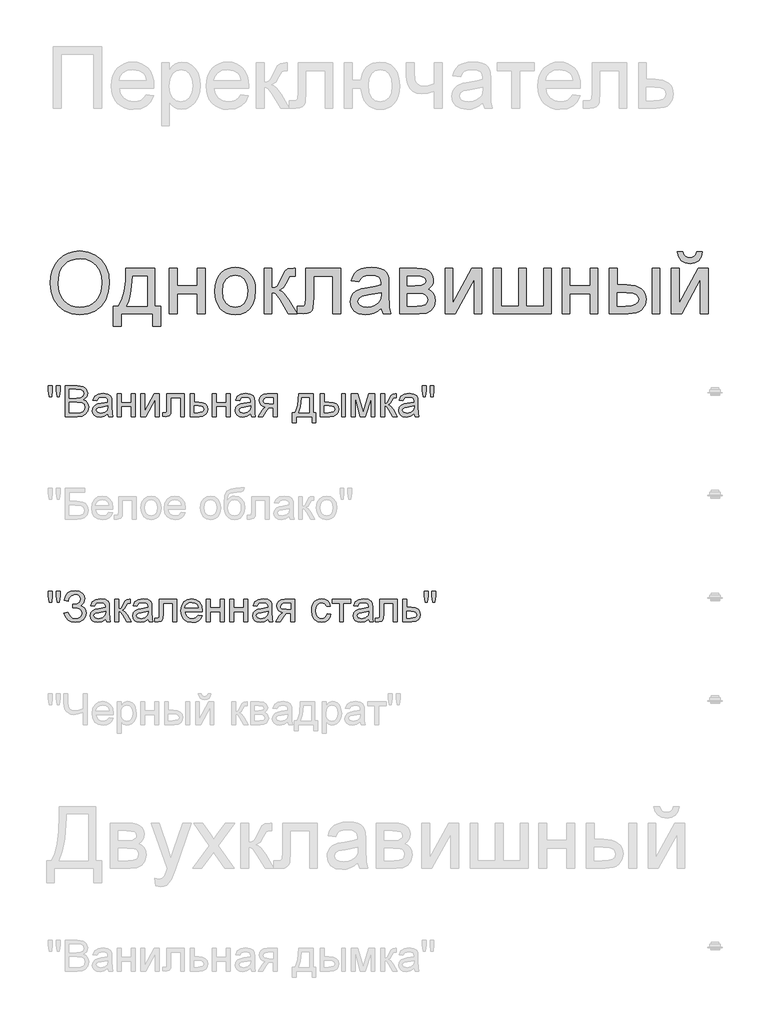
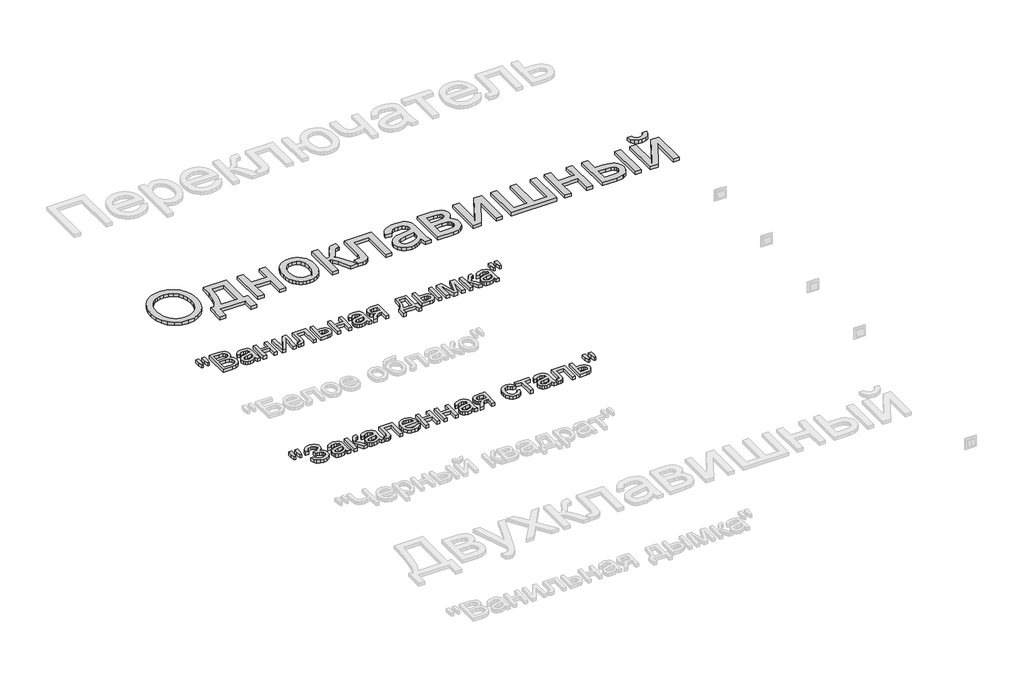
# One storey, part 141 of 168: 3 proxies.
"""IFC4 building model written with IfcOpenShell, lengths in millimetres."""

from ifc_helpers import new_model, si_unit, origin, origin_with_axes, place, context, project, spatial, polyline, outline, extrude, element, save

model = new_model("IFC4")

# Units and contexts
model_context = context("Model", 3, world=origin())
ifc_project = project(units=[si_unit("LENGTHUNIT", "METRE", prefix="MILLI")], contexts=[model_context])

# Site, building, storey
site = spatial("IfcSite", under=ifc_project)
building = spatial("IfcBuilding", under=site)
storey = spatial("IfcBuildingStorey", under=building, Name="Этаж 01", Elevation=0.0)

# Proxies
placement = place(None, origin())
element("IfcBuildingElementProxy", 1, Name="300 мм Arial 2", ObjectType="300 мм Arial 2", at=placement, inside=storey, context=model_context, shape_type="SweptSolid", body=[
    extrude(outline(polyline([(71084.967833, -20701.6943419), (71087.4786277, -20666.3454807), (71095.0110115, -20635.0525185), (71107.5649846, -20607.8154552), (71125.1405469, -20584.634291), (71146.6846363, -20566.1252281), (71171.1441904, -20552.9044689), (71198.5192094, -20544.9720134), (71228.8096932, -20542.3278616), (71268.3386135, -20547.2942685), (71303.7840438, -20562.1934893), (71333.2146034, -20585.9770603), (71354.6989119, -20617.5965178), (71367.8322991, -20655.5251515), (71372.2100949, -20698.2362511), (71367.6023729, -20741.5175679), (71353.7792069, -20779.9796305), (71331.5039521, -20811.6542703), (71301.5399636, -20834.5733186), (71266.398036, -20848.479258), (71228.588964, -20853.1145711), (71188.4530383, -20847.9918143), (71152.805273, -20832.623544), (71123.4482897, -20808.3985146), (71102.1847104, -20776.7054807), (71089.2720524, -20740.2391779), (71084.967833, -20701.6943419)]), holes=[polyline([(71122.6389493, -20702.0622239), (71124.5220453, -20727.0368128), (71130.1713332, -20749.2063016), (71139.586813, -20768.5706901), (71152.7684848, -20785.1299784), (71168.7920449, -20798.3921243), (71186.73319, -20807.8650857), (71206.5919199, -20813.5488625), (71228.3682348, -20815.4434548), (71250.5170301, -20813.5304684), (71270.6102849, -20807.7915093), (71288.6479989, -20798.2265774), (71304.6301724, -20784.8356728), (71317.7152751, -20767.9268966), (71327.061777, -20747.80835), (71332.6696782, -20724.480033), (71334.5389786, -20697.9419455), (71331.3384052, -20664.5934427), (71321.7366851, -20635.7698884), (71305.9821387, -20612.1978495), (71284.3230862, -20594.6038931), (71258.1942675, -20583.6502067), (71229.0304224, -20579.9989779), (71208.0105649, -20581.7579137), (71188.5082206, -20587.034721), (71170.5233895, -20595.8294), (71154.0560717, -20608.1419505), (71140.3110807, -20624.5655823), (71130.4932299, -20645.6935052), (71124.6025195, -20671.525719), (71122.6389493, -20702.0622239)])]), origin_with_axes(), (0.0, 0.0, 1.0), 20.0),
    extrude(outline(polyline([(71452.261217, -20627.0878733), (71593.5279032, -20627.0878733), (71593.5279032, -20810.7345653), (71621.7812404, -20810.7345653), (71621.7812404, -20909.6212456), (71584.1101241, -20909.6212456), (71584.1101241, -20848.4056816), (71428.7167693, -20848.4056816), (71428.7167693, -20909.6212456), (71391.045653, -20909.6212456), (71391.045653, -20810.7345653), (71414.5901007, -20810.7345653), (71431.7058105, -20779.8048865), (71443.6895665, -20738.8872116), (71450.5413687, -20687.9815405), (71452.261217, -20627.0878733)]), holes=[polyline([(71485.2234438, -20664.7589896), (71482.133235, -20710.8821947), (71476.3942759, -20750.5858591), (71468.0065664, -20783.8699826), (71456.9701066, -20810.7345653), (71555.8567869, -20810.7345653), (71555.8567869, -20664.7589896), (71485.2234438, -20664.7589896)])]), origin_with_axes(), (0.0, 0.0, 1.0), 20.0),
    extrude(outline(polyline([(71664.1612462, -20627.0878733), (71701.8323626, -20627.0878733), (71701.8323626, -20711.847885), (71800.7190429, -20711.847885), (71800.7190429, -20627.0878733), (71838.3901592, -20627.0878733), (71838.3901592, -20848.4056816), (71800.7190429, -20848.4056816), (71800.7190429, -20749.5190013), (71701.8323626, -20749.5190013), (71701.8323626, -20848.4056816), (71664.1612462, -20848.4056816), (71664.1612462, -20627.0878733)])), origin_with_axes(), (0.0, 0.0, 1.0), 20.0),
    extrude(outline(polyline([(71885.4790545, -20737.7467774), (71887.5162011, -20709.0841715), (71893.6276407, -20684.385494), (71903.8133735, -20663.6507451), (71918.0733993, -20646.8799246), (71932.4299942, -20636.160763), (71948.2765111, -20628.504219), (71965.6129501, -20623.9102925), (71984.4393113, -20622.3789837), (72005.2223447, -20624.2436856), (72024.0142169, -20629.8377912), (72040.8149277, -20639.1613005), (72055.6244773, -20652.2142135), (72067.7117001, -20668.5550719), (72076.3454307, -20687.7424172), (72081.525669, -20709.7762495), (72083.2524152, -20734.6565687), (72080.1989946, -20772.7139611), (72071.0387329, -20801.6846682), (72056.0383446, -20823.3805088), (72035.464544, -20839.6133019), (72011.0279825, -20849.7392538), (71984.4393113, -20853.1145711), (71963.3527751, -20851.256767), (71944.386159, -20845.6833548), (71927.5394629, -20836.3943344), (71912.8126868, -20823.3897059), (71900.8542227, -20806.8901984), (71892.3124626, -20787.1165412), (71887.1874066, -20764.0687342), (71885.4790545, -20737.7467774)]), holes=[polyline([(71923.1501709, -20737.673201), (71927.5095725, -20771.7666649), (71940.5877774, -20796.0560737), (71960.2694642, -20810.5966095), (71984.4393113, -20815.4434548), (72008.4987937, -20810.5690184), (72028.1436923, -20795.9457091), (72041.2218972, -20771.3344036), (72045.5812988, -20736.4959786), (72041.1943061, -20703.3957961), (72028.0333277, -20679.4374812), (72008.360838, -20664.8969453), (71984.4393113, -20660.0501), (71960.2694642, -20664.8785512), (71940.5877774, -20679.3639048), (71927.5095725, -20703.5981312), (71923.1501709, -20737.673201)])]), origin_with_axes(), (0.0, 0.0, 1.0), 20.0),
    extrude(outline(polyline([(72125.632421, -20627.0878733), (72163.3035373, -20627.0878733), (72163.3035373, -20721.265664), (72178.6258224, -20719.5734069), (72188.5402422, -20714.4966353), (72197.3142278, -20701.2528835), (72209.2152103, -20675.0596854), (72226.3952995, -20641.0306009), (72241.5520377, -20629.9573528), (72269.1063991, -20627.0878733), (72276.3168862, -20627.0878733), (72276.3168862, -20664.9797188), (72266.1633432, -20664.7589896), (72247.7692434, -20668.7321151), (72234.8197972, -20693.5273616), (72219.6262708, -20720.345959), (72198.3259032, -20733.4793463), (72210.263674, -20738.7814455), (72222.0910801, -20748.1394438), (72245.4147986, -20779.0231373), (72285.7346653, -20848.4056816), (72242.9132011, -20848.4056816), (72203.4026748, -20780.4946653), (72183.537047, -20751.7630814), (72174.2480267, -20746.5483542), (72163.3035373, -20744.8101117), (72163.3035373, -20848.4056816), (72125.632421, -20848.4056816), (72125.632421, -20627.0878733)])), origin_with_axes(), (0.0, 0.0, 1.0), 20.0),
    extrude(outline(polyline([(72328.1146711, -20627.0878733), (72497.6346945, -20627.0878733), (72497.6346945, -20848.1849524), (72459.9635782, -20848.1849524), (72459.9635782, -20664.7589896), (72365.7857875, -20664.7589896), (72365.7857875, -20770.3411222), (72363.2474017, -20819.0486984), (72358.4925269, -20830.0759612), (72349.3046741, -20839.6133019), (72335.3619464, -20846.2075866), (72316.3424473, -20848.4056816), (72285.7346653, -20846.4926952), (72285.7346653, -20810.7345653), (72302.5836607, -20810.7345653), (72319.6165971, -20808.4169087), (72326.422414, -20801.0592688), (72328.1146711, -20768.2074066), (72328.1146711, -20627.0878733)])), origin_with_axes(), (0.0, 0.0, 1.0), 20.0),
    extrude(outline(polyline([(72695.4080551, -20820.1523443), (72677.4094285, -20835.584994), (72658.877373, -20845.6833548), (72639.3888243, -20851.256767), (72618.5207181, -20853.1145711), (72587.0392164, -20848.6448049), (72563.8166655, -20835.2355061), (72549.4968588, -20814.8732377), (72544.7235899, -20789.5445623), (72546.5262117, -20773.9279716), (72551.934077, -20759.7461207), (72560.2758013, -20747.6060149), (72570.8799998, -20738.1146594), (72597.2571388, -20725.7538244), (72629.8514836, -20720.0884417), (72668.3687285, -20714.1287533), (72695.1873259, -20707.1389954), (72695.4080551, -20698.7512859), (72692.8144871, -20681.9390788), (72685.0337829, -20670.9394071), (72667.6329645, -20662.7724268), (72643.389541, -20660.0501), (72620.9487393, -20661.8619189), (72605.2769663, -20667.2973753), (72594.5899944, -20677.3497509), (72587.1035957, -20693.0123268), (72549.4324794, -20688.3034373), (72555.9715819, -20667.7020455), (72565.7296518, -20651.5152378), (72579.6171971, -20639.1360086), (72598.5447258, -20629.9573528), (72621.6937003, -20624.273576), (72648.2455833, -20622.3789837), (72673.7122145, -20624.0528468), (72693.8997389, -20629.074436), (72709.1208565, -20636.625214), (72719.6882668, -20645.8866432), (72726.6964188, -20657.3369703), (72731.2397615, -20671.4544419), (72733.0791714, -20704.4166687), (72733.0791714, -20751.2848348), (72734.9921578, -20816.7310418), (72742.4969505, -20848.4056816), (72704.8258342, -20848.4056816), (72695.4080551, -20820.1523443)]), holes=[polyline([(72695.4080551, -20744.8101117), (72634.6339495, -20756.3616064), (72602.2235458, -20762.4684475), (72587.5450541, -20772.4012614), (72582.3947062, -20786.895812), (72585.1998064, -20798.0978187), (72593.6151071, -20807.2764745), (72607.4566671, -20813.4017097), (72626.5405456, -20815.4434548), (72646.7740554, -20813.1901776), (72664.6531203, -20806.4303459), (72679.1476709, -20796.4699409), (72689.2276376, -20784.6149436), (72693.6974039, -20772.4012614), (72695.1873259, -20755.4786896), (72695.4080551, -20744.8101117)])]), origin_with_axes(), (0.0, 0.0, 1.0), 20.0),
    extrude(outline(polyline([(72784.8769564, -20627.0878733), (72867.8711345, -20627.0878733), (72894.5517762, -20628.3478691), (72913.3781373, -20632.1278566), (72927.2288944, -20639.2647673), (72938.9827241, -20650.5955328), (72947.0117487, -20665.3567978), (72949.6880902, -20682.7852073), (72948.0694094, -20696.8291025), (72943.2133671, -20708.9416172), (72935.1015691, -20719.1779337), (72923.7156213, -20727.5932344), (72937.658349, -20735.4199238), (72949.0259026, -20748.0106851), (72956.5858776, -20764.3722368), (72959.1058693, -20783.5112976), (72952.7231167, -20812.2244873), (72937.5479844, -20832.439603), (72913.5252901, -20844.4141619), (72880.5998515, -20848.4056816), (72784.8769564, -20848.4056816), (72784.8769564, -20627.0878733)]), holes=[polyline([(72822.5480727, -20711.847885), (72859.7777306, -20711.847885), (72890.4958772, -20709.9348986), (72905.4318862, -20702.2829531), (72910.370702, -20695.9553828), (72912.0169739, -20688.4505901), (72909.1291002, -20677.2117951), (72900.4654792, -20669.9829139), (72884.8121003, -20666.0649707), (72860.954953, -20664.7589896), (72822.5480727, -20664.7589896), (72822.5480727, -20711.847885)]), polyline([(72822.5480727, -20810.7345653), (72868.7540513, -20810.7345653), (72893.9355738, -20809.033111), (72909.7361055, -20803.9287484), (72918.2157855, -20794.648925), (72921.434753, -20780.4210889), (72919.8252692, -20770.9941127), (72914.996818, -20762.2845065), (72907.5839958, -20755.4694925), (72898.2213991, -20751.7262932), (72865.0752313, -20749.5190013), (72822.5480727, -20749.5190013), (72822.5480727, -20810.7345653)])]), origin_with_axes(), (0.0, 0.0, 1.0), 20.0),
    extrude(outline(polyline([(73006.1947647, -20627.0878733), (73043.865881, -20627.0878733), (73043.865881, -20795.8721327), (73136.4249909, -20627.0878733), (73185.1325671, -20627.0878733), (73185.1325671, -20848.4056816), (73147.4614508, -20848.4056816), (73147.4614508, -20680.6514918), (73055.490952, -20848.4056816), (73006.1947647, -20848.4056816), (73006.1947647, -20627.0878733)])), origin_with_axes(), (0.0, 0.0, 1.0), 20.0),
    extrude(outline(polyline([(73241.6392416, -20627.0878733), (73279.3103579, -20627.0878733), (73279.3103579, -20810.7345653), (73364.0703696, -20810.7345653), (73364.0703696, -20627.0878733), (73401.7414859, -20627.0878733), (73401.7414859, -20810.7345653), (73486.5014976, -20810.7345653), (73486.5014976, -20627.0878733), (73524.1726139, -20627.0878733), (73524.1726139, -20848.4056816), (73241.6392416, -20848.4056816), (73241.6392416, -20627.0878733)])), origin_with_axes(), (0.0, 0.0, 1.0), 20.0),
    extrude(outline(polyline([(73575.9703988, -20627.0878733), (73613.6415151, -20627.0878733), (73613.6415151, -20711.847885), (73712.5281954, -20711.847885), (73712.5281954, -20627.0878733), (73750.1993117, -20627.0878733), (73750.1993117, -20848.4056816), (73712.5281954, -20848.4056816), (73712.5281954, -20749.5190013), (73613.6415151, -20749.5190013), (73613.6415151, -20848.4056816), (73575.9703988, -20848.4056816), (73575.9703988, -20627.0878733)])), origin_with_axes(), (0.0, 0.0, 1.0), 20.0),
    extrude(outline(polyline([(74013.8971258, -20627.0878733), (74051.5682421, -20627.0878733), (74051.5682421, -20848.4056816), (74013.8971258, -20848.4056816), (74013.8971258, -20627.0878733)])), origin_with_axes(), (0.0, 0.0, 1.0), 20.0),
    extrude(outline(polyline([(73806.7059862, -20627.0878733), (73844.3771025, -20627.0878733), (73844.3771025, -20707.1389954), (73890.9509631, -20707.1389954), (73931.2064504, -20711.857082), (73947.4231486, -20717.7546902), (73961.0324831, -20726.0113418), (73971.7999293, -20736.3419281), (73979.4909622, -20748.4613405), (73984.105582, -20762.3695792), (73985.6437886, -20778.0666441), (73980.4842436, -20805.0231973), (73965.0056087, -20827.7675016), (73953.1437136, -20836.7967054), (73938.1962083, -20843.2461366), (73899.0443669, -20848.4056816), (73806.7059862, -20848.4056816), (73806.7059862, -20627.0878733)]), holes=[polyline([(73844.3771025, -20810.7345653), (73883.0782884, -20810.7345653), (73913.0790651, -20808.7571995), (73933.0366633, -20802.8251024), (73944.2386701, -20792.6991504), (73947.9726723, -20778.1402205), (73945.2043603, -20765.8345678), (73936.8994243, -20754.9636548), (73919.1399209, -20747.3484975), (73888.0079071, -20744.8101117), (73844.3771025, -20744.8101117), (73844.3771025, -20810.7345653)])]), origin_with_axes(), (0.0, 0.0, 1.0), 20.0),
    extrude(outline(polyline([(74108.0749166, -20627.0878733), (74145.7460329, -20627.0878733), (74145.7460329, -20795.8721327), (74238.3051429, -20627.0878733), (74287.0127191, -20627.0878733), (74287.0127191, -20848.4056816), (74249.3416028, -20848.4056816), (74249.3416028, -20680.6514918), (74157.371104, -20848.4056816), (74108.0749166, -20848.4056816), (74108.0749166, -20627.0878733)])), origin_with_axes(), (0.0, 0.0, 1.0), 20.0),
    extrude(outline(polyline([(74230.5060446, -20547.0367511), (74258.7593818, -20547.0367511), (74252.6801319, -20571.160613), (74240.4756467, -20588.9385104), (74222.6977493, -20599.8921968), (74199.8982626, -20603.5434256), (74175.1581984, -20599.9197879), (74155.9731524, -20589.048875), (74142.8581593, -20571.2985687), (74136.3282538, -20547.0367511), (74164.5815911, -20547.0367511), (74168.5547166, -20559.4435714), (74175.1765925, -20568.2635422), (74184.484007, -20573.5334518), (74196.5137482, -20575.2900883), (74210.0885939, -20573.5886341), (74219.9110431, -20568.4842714), (74226.5329191, -20559.7194829), (74230.5060446, -20547.0367511)])), origin_with_axes(), (0.0, 0.0, 1.0), 20.0),
])
element("IfcBuildingElementProxy", 2, Name="150", ObjectType="150", at=placement, inside=storey, context=model_context, shape_type="SweptSolid", body=[
    extrude(outline(polyline([(71080.1485789, -21251.873446), (71075.550054, -21222.7739802), (71075.550054, -21197.7212163), (71094.3856121, -21197.7212163), (71094.3856121, -21222.7739802), (71090.2653338, -21251.873446), (71080.1485789, -21251.873446)])), origin_with_axes(), (0.0, 0.0, 1.0), 20.0),
    extrude(outline(polyline([(71117.7093306, -21251.873446), (71113.2211703, -21222.7739802), (71113.2211703, -21197.7212163), (71132.0567284, -21197.7212163), (71132.0567284, -21222.7739802), (71127.6421445, -21251.873446), (71117.7093306, -21251.873446)])), origin_with_axes(), (0.0, 0.0, 1.0), 20.0),
    extrude(outline(polyline([(71157.9556209, -21348.4056816), (71157.9556209, -21197.7212163), (71215.4555767, -21197.7212163), (71243.6169435, -21202.1541944), (71253.0807078, -21207.7781904), (71260.2452096, -21215.7842223), (71266.2600803, -21235.0612389), (71261.2017028, -21252.6643923), (71245.9162059, -21266.0001146), (71256.5893823, -21271.5735269), (71264.4758526, -21280.0532069), (71269.3456905, -21290.8781346), (71270.9689698, -21303.48729), (71266.5359918, -21323.7391938), (71255.5547142, -21338.160168), (71239.1655713, -21345.8121135), (71215.0141183, -21348.4056816), (71157.9556209, -21348.4056816)]), holes=[polyline([(71176.791179, -21258.9367803), (71211.1881456, -21258.9367803), (71231.2745025, -21257.3180996), (71243.3594261, -21250.3467358), (71247.4245221, -21238.0778712), (71243.6353376, -21225.7906126), (71232.7828187, -21218.5249432), (71208.5761834, -21216.5567745), (71176.791179, -21216.5567745), (71176.791179, -21258.9367803)]), polyline([(71176.791179, -21329.5701234), (71215.4187885, -21329.5701234), (71229.3983043, -21328.8343594), (71241.2257105, -21324.7324752), (71249.061597, -21316.3631598), (71252.1334117, -21303.671231), (71248.5281681, -21289.0295275), (71236.8479148, -21280.2923302), (71213.5793786, -21277.7723385), (71176.791179, -21277.7723385), (71176.791179, -21329.5701234)])]), origin_with_axes(), (0.0, 0.0, 1.0), 20.0),
    extrude(outline(polyline([(71365.1467606, -21334.279013), (71346.8814195, -21347.0445182), (71326.7030921, -21350.7601263), (71310.9623412, -21348.5252432), (71299.3510657, -21341.8205939), (71292.1911624, -21331.6394596), (71289.804528, -21318.975122), (71293.4097715, -21304.0759012), (71302.8827329, -21293.2601705), (71316.0713024, -21287.079753), (71332.3684748, -21284.2470616), (71365.036396, -21277.7723385), (71365.1467606, -21273.5784838), (71363.8499765, -21265.1723802), (71359.9596244, -21259.6725443), (71351.2592153, -21255.5890542), (71339.1375035, -21254.2278908), (71320.0812162, -21257.8515285), (71310.9945309, -21270.7090042), (71292.1589727, -21268.3545594), (71300.3075589, -21249.9604597), (71316.7150959, -21239.1815172), (71341.5655247, -21235.3923327), (71364.3926025, -21238.7400588), (71377.2868664, -21247.1461624), (71383.0626137, -21259.9300617), (71383.9823187, -21276.4111751), (71383.9823187, -21299.8452582), (71384.9388119, -21332.5683617), (71388.6912083, -21348.4056816), (71369.8556501, -21348.4056816), (71365.1467606, -21334.279013)]), holes=[polyline([(71365.1467606, -21296.6078966), (71334.7597078, -21302.383644), (71318.5545059, -21305.4370645), (71311.2152601, -21310.4034715), (71308.6400861, -21317.6507468), (71314.2502865, -21327.841078), (71330.7130058, -21331.9245682), (71349.7692932, -21327.4180137), (71362.0565518, -21316.5103126), (71365.036396, -21301.9421856), (71365.1467606, -21296.6078966)])]), origin_with_axes(), (0.0, 0.0, 1.0), 20.0),
    extrude(outline(polyline([(71409.8812112, -21237.7467774), (71428.7167693, -21237.7467774), (71428.7167693, -21280.1267833), (71478.1601095, -21280.1267833), (71478.1601095, -21237.7467774), (71496.9956676, -21237.7467774), (71496.9956676, -21348.4056816), (71478.1601095, -21348.4056816), (71478.1601095, -21298.9623414), (71428.7167693, -21298.9623414), (71428.7167693, -21348.4056816), (71409.8812112, -21348.4056816), (71409.8812112, -21237.7467774)])), origin_with_axes(), (0.0, 0.0, 1.0), 20.0),
    extrude(outline(polyline([(71525.2490049, -21237.7467774), (71544.084563, -21237.7467774), (71544.084563, -21322.1389071), (71590.364118, -21237.7467774), (71614.7179061, -21237.7467774), (71614.7179061, -21348.4056816), (71595.8823479, -21348.4056816), (71595.8823479, -21264.5285867), (71549.8970985, -21348.4056816), (71525.2490049, -21348.4056816), (71525.2490049, -21237.7467774)])), origin_with_axes(), (0.0, 0.0, 1.0), 20.0),
    extrude(outline(polyline([(71652.3890224, -21237.7467774), (71737.1490341, -21237.7467774), (71737.1490341, -21348.295317), (71718.3134759, -21348.295317), (71718.3134759, -21256.5823356), (71671.2245806, -21256.5823356), (71671.2245806, -21309.3734019), (71669.9553877, -21333.72719), (71662.9840239, -21344.0094917), (71646.5029105, -21348.4056816), (71631.1990195, -21347.4491884), (71631.1990195, -21329.5701234), (71639.6235172, -21329.5701234), (71648.1399854, -21328.4112951), (71651.5428938, -21324.7324752), (71652.3890224, -21308.3065441), (71652.3890224, -21237.7467774)])), origin_with_axes(), (0.0, 0.0, 1.0), 20.0),
    extrude(outline(polyline([(71765.4023713, -21237.7467774), (71784.2379295, -21237.7467774), (71784.2379295, -21277.7723385), (71805.9429672, -21277.7723385), (71824.7601312, -21280.1313818), (71838.6844648, -21287.2085117), (71847.2929034, -21298.433511), (71850.162383, -21313.2361628), (71847.7205663, -21326.7144394), (71840.395116, -21338.0865916), (71827.6985887, -21345.8259091), (71809.1435405, -21348.4056816), (71765.4023713, -21348.4056816), (71765.4023713, -21237.7467774)]), holes=[polyline([(71784.2379295, -21329.5701234), (71801.8226888, -21329.5701234), (71824.539402, -21325.615392), (71829.6299692, -21320.552416), (71831.3268249, -21313.272951), (71826.3052356, -21301.6846682), (71818.2348244, -21297.8770895), (71804.066769, -21296.6078966), (71784.2379295, -21296.6078966), (71784.2379295, -21329.5701234)])]), origin_with_axes(), (0.0, 0.0, 1.0), 20.0),
    extrude(outline(polyline([(71873.7068307, -21237.7467774), (71892.5423889, -21237.7467774), (71892.5423889, -21280.1267833), (71941.985729, -21280.1267833), (71941.985729, -21237.7467774), (71960.8212872, -21237.7467774), (71960.8212872, -21348.4056816), (71941.985729, -21348.4056816), (71941.985729, -21298.9623414), (71892.5423889, -21298.9623414), (71892.5423889, -21348.4056816), (71873.7068307, -21348.4056816), (71873.7068307, -21237.7467774)])), origin_with_axes(), (0.0, 0.0, 1.0), 20.0),
    extrude(outline(polyline([(72059.7079675, -21334.279013), (72041.4426264, -21347.0445182), (72021.264299, -21350.7601263), (72005.5235481, -21348.5252432), (71993.9122726, -21341.8205939), (71986.7523693, -21331.6394596), (71984.3657349, -21318.975122), (71987.9709784, -21304.0759012), (71997.4439398, -21293.2601705), (72010.6325093, -21287.079753), (72026.9296817, -21284.2470616), (72059.5976029, -21277.7723385), (72059.7079675, -21273.5784838), (72058.4111834, -21265.1723802), (72054.5208313, -21259.6725443), (72045.8204221, -21255.5890542), (72033.6987104, -21254.2278908), (72014.6424231, -21257.8515285), (72005.5557378, -21270.7090042), (71986.7201796, -21268.3545594), (71994.8687658, -21249.9604597), (72011.2763028, -21239.1815172), (72036.1267316, -21235.3923327), (72058.9538094, -21238.7400588), (72071.8480733, -21247.1461624), (72077.6238206, -21259.9300617), (72078.5435256, -21276.4111751), (72078.5435256, -21299.8452582), (72079.5000188, -21332.5683617), (72083.2524152, -21348.4056816), (72064.416857, -21348.4056816), (72059.7079675, -21334.279013)]), holes=[polyline([(72059.7079675, -21296.6078966), (72029.3209147, -21302.383644), (72013.1157128, -21305.4370645), (72005.776467, -21310.4034715), (72003.201293, -21317.6507468), (72008.8114934, -21327.841078), (72025.2742127, -21331.9245682), (72044.3305001, -21327.4180137), (72056.6177587, -21316.5103126), (72059.5976029, -21301.9421856), (72059.7079675, -21296.6078966)])]), origin_with_axes(), (0.0, 0.0, 1.0), 20.0),
    extrude(outline(polyline([(72189.2024298, -21237.7467774), (72189.2024298, -21348.4056816), (72170.3668716, -21348.4056816), (72170.3668716, -21306.0256757), (72160.1029639, -21306.0256757), (72146.1234481, -21308.4169087), (72132.9900609, -21324.4933519), (72117.9804755, -21348.4056816), (72096.2018614, -21348.4056816), (72115.1109959, -21318.1657816), (72123.4619172, -21307.3132627), (72131.1506509, -21302.4940086), (72118.2747811, -21298.5484742), (72109.224884, -21291.0528785), (72103.872201, -21281.0832765), (72102.0879733, -21269.7157228), (72104.5251915, -21256.8214589), (72111.8368462, -21246.6127335), (72123.7654199, -21239.9632664), (72140.0533952, -21237.7467774), (72189.2024298, -21237.7467774)]), holes=[polyline([(72170.3668716, -21256.5823356), (72145.5348369, -21256.5823356), (72132.7095509, -21257.672186), (72125.4300859, -21260.9417372), (72120.9235315, -21271.1504626), (72122.583599, -21278.32876), (72127.5638015, -21283.3089625), (72151.0898551, -21287.1901176), (72170.3668716, -21287.1901176), (72170.3668716, -21256.5823356)])]), origin_with_axes(), (0.0, 0.0, 1.0), 20.0),
    extrude(outline(polyline([(72292.7979996, -21237.7467774), (72363.4313427, -21237.7467774), (72363.4313427, -21329.5701234), (72377.5580113, -21329.5701234), (72377.5580113, -21379.0134636), (72358.7224531, -21379.0134636), (72358.7224531, -21348.4056816), (72281.0257758, -21348.4056816), (72281.0257758, -21379.0134636), (72262.1902176, -21379.0134636), (72262.1902176, -21329.5701234), (72273.9624415, -21329.5701234), (72282.5202964, -21314.105284), (72288.5121744, -21293.6464466), (72292.7979996, -21237.7467774)]), holes=[polyline([(72309.279113, -21256.5823356), (72304.864529, -21299.4957703), (72295.1524444, -21329.5701234), (72344.5957845, -21329.5701234), (72344.5957845, -21256.5823356), (72309.279113, -21256.5823356)])]), origin_with_axes(), (0.0, 0.0, 1.0), 20.0),
    extrude(outline(polyline([(72502.3435841, -21237.7467774), (72521.1791422, -21237.7467774), (72521.1791422, -21348.4056816), (72502.3435841, -21348.4056816), (72502.3435841, -21237.7467774)])), origin_with_axes(), (0.0, 0.0, 1.0), 20.0),
    extrude(outline(polyline([(72398.7480142, -21237.7467774), (72417.5835724, -21237.7467774), (72417.5835724, -21277.7723385), (72440.8705027, -21277.7723385), (72460.9982463, -21280.1313818), (72475.9112627, -21287.2085117), (72485.1405023, -21298.433511), (72488.2169154, -21313.2361628), (72485.637143, -21326.7144394), (72477.8978255, -21338.0865916), (72464.4931253, -21345.8259091), (72444.9172046, -21348.4056816), (72398.7480142, -21348.4056816), (72398.7480142, -21237.7467774)]), holes=[polyline([(72417.5835724, -21329.5701234), (72436.9341653, -21329.5701234), (72461.9133528, -21325.615392), (72467.5143562, -21320.552416), (72469.3813573, -21313.272951), (72463.8447333, -21301.6846682), (72454.9649816, -21297.8770895), (72439.3989747, -21296.6078966), (72417.5835724, -21296.6078966), (72417.5835724, -21329.5701234)])]), origin_with_axes(), (0.0, 0.0, 1.0), 20.0),
    extrude(outline(polyline([(72549.4324794, -21237.7467774), (72581.8428832, -21237.7467774), (72606.8220707, -21326.3327619), (72633.7510327, -21237.7467774), (72664.8002731, -21237.7467774), (72664.8002731, -21348.4056816), (72645.964715, -21348.4056816), (72645.964715, -21259.3046623), (72618.8886001, -21348.4056816), (72594.1669301, -21348.4056816), (72568.2680376, -21255.0372312), (72568.2680376, -21348.4056816), (72549.4324794, -21348.4056816), (72549.4324794, -21237.7467774)])), origin_with_axes(), (0.0, 0.0, 1.0), 20.0),
    extrude(outline(polyline([(72693.0536104, -21237.7467774), (72711.8891685, -21237.7467774), (72711.8891685, -21284.8356728), (72724.5075209, -21281.4511584), (72734.845005, -21261.7326835), (72743.4350496, -21244.7181412), (72751.0134187, -21239.1815172), (72764.7905994, -21237.7467774), (72768.395843, -21237.7467774), (72768.395843, -21256.6927002), (72763.3190714, -21256.5823356), (72754.1220216, -21258.5688983), (72747.6472984, -21270.9665216), (72740.0505352, -21284.3758203), (72729.4003515, -21290.9425139), (72741.2829399, -21298.2725627), (72752.9447992, -21313.7144094), (72773.1047325, -21348.4056816), (72751.6940004, -21348.4056816), (72731.9387373, -21314.4501734), (72722.0059234, -21300.0843815), (72711.8891685, -21296.6078966), (72711.8891685, -21348.4056816), (72693.0536104, -21348.4056816), (72693.0536104, -21237.7467774)])), origin_with_axes(), (0.0, 0.0, 1.0), 20.0),
    extrude(outline(polyline([(72855.5102994, -21334.279013), (72837.2449584, -21347.0445182), (72817.0666309, -21350.7601263), (72801.3258801, -21348.5252432), (72789.7146046, -21341.8205939), (72782.5547013, -21331.6394596), (72780.1680668, -21318.975122), (72783.7733104, -21304.0759012), (72793.2462717, -21293.2601705), (72806.4348413, -21287.079753), (72822.7320137, -21284.2470616), (72855.3999348, -21277.7723385), (72855.5102994, -21273.5784838), (72854.2135154, -21265.1723802), (72850.3231633, -21259.6725443), (72841.6227541, -21255.5890542), (72829.5010424, -21254.2278908), (72810.444755, -21257.8515285), (72801.3580697, -21270.7090042), (72782.5225116, -21268.3545594), (72790.6710978, -21249.9604597), (72807.0786348, -21239.1815172), (72831.9290635, -21235.3923327), (72854.7561413, -21238.7400588), (72867.6504053, -21247.1461624), (72873.4261526, -21259.9300617), (72874.3458576, -21276.4111751), (72874.3458576, -21299.8452582), (72875.3023508, -21332.5683617), (72879.0547471, -21348.4056816), (72860.219189, -21348.4056816), (72855.5102994, -21334.279013)]), holes=[polyline([(72855.5102994, -21296.6078966), (72825.1232466, -21302.383644), (72808.9180447, -21305.4370645), (72801.5787989, -21310.4034715), (72799.003625, -21317.6507468), (72804.6138254, -21327.841078), (72821.0765447, -21331.9245682), (72840.132832, -21327.4180137), (72852.4200907, -21316.5103126), (72855.3999348, -21301.9421856), (72855.5102994, -21296.6078966)])]), origin_with_axes(), (0.0, 0.0, 1.0), 20.0),
    extrude(outline(polyline([(72900.1343854, -21251.873446), (72895.5358605, -21222.7739802), (72895.5358605, -21197.7212163), (72914.3714187, -21197.7212163), (72914.3714187, -21222.7739802), (72910.2511403, -21251.873446), (72900.1343854, -21251.873446)])), origin_with_axes(), (0.0, 0.0, 1.0), 20.0),
    extrude(outline(polyline([(72937.6951372, -21251.873446), (72933.2069768, -21222.7739802), (72933.2069768, -21197.7212163), (72952.042535, -21197.7212163), (72952.042535, -21222.7739802), (72947.627951, -21251.873446), (72937.6951372, -21251.873446)])), origin_with_axes(), (0.0, 0.0, 1.0), 20.0),
])
element("IfcBuildingElementProxy", 3, Name="150", ObjectType="150", at=placement, inside=storey, context=model_context, shape_type="SweptSolid", body=[
    extrude(outline(polyline([(71080.1485789, -22251.873446), (71075.550054, -22222.7739802), (71075.550054, -22197.7212163), (71094.3856121, -22197.7212163), (71094.3856121, -22222.7739802), (71090.2653338, -22251.873446), (71080.1485789, -22251.873446)])), origin_with_axes(), (0.0, 0.0, 1.0), 20.0),
    extrude(outline(polyline([(71117.7093306, -22251.873446), (71113.2211703, -22222.7739802), (71113.2211703, -22197.7212163), (71132.0567284, -22197.7212163), (71132.0567284, -22222.7739802), (71127.6421445, -22251.873446), (71117.7093306, -22251.873446)])), origin_with_axes(), (0.0, 0.0, 1.0), 20.0),
    extrude(outline(polyline([(71150.8922866, -22306.0256757), (71169.7278447, -22301.3167862), (71181.2977335, -22321.7158428), (71192.2284273, -22329.3723868), (71206.2217387, -22331.9245682), (71220.398991, -22330.0069833), (71231.2193202, -22324.2542286), (71238.0757209, -22315.7883442), (71240.3611878, -22305.7313701), (71237.8641888, -22295.1961495), (71230.3731916, -22287.0613589), (71218.5779752, -22281.8604272), (71203.1683181, -22280.1267833), (71193.2722924, -22280.1267833), (71193.2722924, -22261.2912251), (71214.591054, -22259.7645148), (71227.6324708, -22251.9654165), (71233.2978535, -22237.7099892), (71231.4124583, -22228.8394346), (71225.7562726, -22221.2104817), (71216.8811195, -22215.9543677), (71205.3388219, -22214.2023297), (71186.1169876, -22219.591801), (71175.117316, -22233.8840165), (71172.0822895, -22247.1645565), (71153.2467313, -22242.455667), (71159.0983543, -22221.8542752), (71169.7002536, -22207.1389954), (71185.0524291, -22198.3098275), (71205.1548809, -22195.3667716), (71224.5468605, -22198.4247907), (71239.4598769, -22207.5988479), (71248.965028, -22220.8655924), (71252.1334117, -22236.201673), (71247.2037929, -22254.8440931), (71232.4149367, -22268.7592296), (71242.8903765, -22273.5830823), (71251.5080123, -22281.7270699), (71257.2745625, -22292.4922168), (71259.196746, -22305.1795471), (71255.508729, -22323.0172254), (71244.444678, -22337.6819214), (71227.2921799, -22347.4905751), (71205.3388219, -22350.7601263), (71186.2365493, -22347.9642232), (71170.7947025, -22339.5765137), (71159.0132816, -22325.5969979), (71150.8922866, -22306.0256757)])), origin_with_axes(), (0.0, 0.0, 1.0), 20.0),
    extrude(outline(polyline([(71353.3745367, -22334.279013), (71335.1091957, -22347.0445182), (71314.9308682, -22350.7601263), (71299.1901174, -22348.5252432), (71287.5788419, -22341.8205939), (71280.4189386, -22331.6394596), (71278.0323041, -22318.975122), (71281.6375477, -22304.0759012), (71291.110509, -22293.2601705), (71304.2990786, -22287.079753), (71320.596251, -22284.2470616), (71353.2641721, -22277.7723385), (71353.3745367, -22273.5784838), (71352.0777527, -22265.1723802), (71348.1874006, -22259.6725443), (71339.4869914, -22255.5890542), (71327.3652797, -22254.2278908), (71308.3089923, -22257.8515285), (71299.222307, -22270.7090042), (71280.3867489, -22268.3545594), (71288.5353351, -22249.9604597), (71304.9428721, -22239.1815172), (71329.7933008, -22235.3923327), (71352.6203786, -22238.7400588), (71365.5146426, -22247.1461624), (71371.2903899, -22259.9300617), (71372.2100949, -22276.4111751), (71372.2100949, -22299.8452582), (71373.1665881, -22332.5683617), (71376.9189844, -22348.4056816), (71358.0834263, -22348.4056816), (71353.3745367, -22334.279013)]), holes=[polyline([(71353.3745367, -22296.6078966), (71322.9874839, -22302.383644), (71306.782282, -22305.4370645), (71299.4430362, -22310.4034715), (71296.8678623, -22317.6507468), (71302.4780627, -22327.841078), (71318.940782, -22331.9245682), (71337.9970693, -22327.4180137), (71350.284328, -22316.5103126), (71353.2641721, -22301.9421856), (71353.3745367, -22296.6078966)])]), origin_with_axes(), (0.0, 0.0, 1.0), 20.0),
    extrude(outline(polyline([(71398.1089873, -22237.7467774), (71416.9445455, -22237.7467774), (71416.9445455, -22284.8356728), (71429.5628979, -22281.4511584), (71439.900382, -22261.7326835), (71448.4904266, -22244.7181412), (71456.0687957, -22239.1815172), (71469.8459764, -22237.7467774), (71473.4512199, -22237.7467774), (71473.4512199, -22256.6927002), (71468.3744484, -22256.5823356), (71459.1773985, -22258.5688983), (71452.7026754, -22270.9665216), (71445.1059122, -22284.3758203), (71434.4557285, -22290.9425139), (71446.3383169, -22298.2725627), (71458.0001762, -22313.7144094), (71478.1601095, -22348.4056816), (71456.7493774, -22348.4056816), (71436.9941142, -22314.4501734), (71427.0613004, -22300.0843815), (71416.9445455, -22296.6078966), (71416.9445455, -22348.4056816), (71398.1089873, -22348.4056816), (71398.1089873, -22237.7467774)])), origin_with_axes(), (0.0, 0.0, 1.0), 20.0),
    extrude(outline(polyline([(71560.5656764, -22334.279013), (71542.3003353, -22347.0445182), (71522.1220079, -22350.7601263), (71506.381257, -22348.5252432), (71494.7699816, -22341.8205939), (71487.6100782, -22331.6394596), (71485.2234438, -22318.975122), (71488.8286873, -22304.0759012), (71498.3016487, -22293.2601705), (71511.4902183, -22287.079753), (71527.7873906, -22284.2470616), (71560.4553118, -22277.7723385), (71560.5656764, -22273.5784838), (71559.2688924, -22265.1723802), (71555.3785403, -22259.6725443), (71546.6781311, -22255.5890542), (71534.5564193, -22254.2278908), (71515.500132, -22257.8515285), (71506.4134467, -22270.7090042), (71487.5778886, -22268.3545594), (71495.7264748, -22249.9604597), (71512.1340117, -22239.1815172), (71536.9844405, -22235.3923327), (71559.8115183, -22238.7400588), (71572.7057822, -22247.1461624), (71578.4815296, -22259.9300617), (71579.4012346, -22276.4111751), (71579.4012346, -22299.8452582), (71580.3577277, -22332.5683617), (71584.1101241, -22348.4056816), (71565.2745659, -22348.4056816), (71560.5656764, -22334.279013)]), holes=[polyline([(71560.5656764, -22296.6078966), (71530.1786236, -22302.383644), (71513.9734217, -22305.4370645), (71506.6341759, -22310.4034715), (71504.0590019, -22317.6507468), (71509.6692024, -22327.841078), (71526.1319217, -22331.9245682), (71545.188209, -22327.4180137), (71557.4754676, -22316.5103126), (71560.4553118, -22301.9421856), (71560.5656764, -22296.6078966)])]), origin_with_axes(), (0.0, 0.0, 1.0), 20.0),
    extrude(outline(polyline([(71614.7179061, -22237.7467774), (71699.4779178, -22237.7467774), (71699.4779178, -22348.295317), (71680.6423596, -22348.295317), (71680.6423596, -22256.5823356), (71633.5534643, -22256.5823356), (71633.5534643, -22309.3734019), (71632.2842714, -22333.72719), (71625.3129076, -22344.0094917), (71608.8317942, -22348.4056816), (71593.5279032, -22347.4491884), (71593.5279032, -22329.5701234), (71601.9524009, -22329.5701234), (71610.4688691, -22328.4112951), (71613.8717775, -22324.7324752), (71614.7179061, -22308.3065441), (71614.7179061, -22237.7467774)])), origin_with_axes(), (0.0, 0.0, 1.0), 20.0),
    extrude(outline(polyline([(71805.2072032, -22315.4434548), (71823.6748794, -22317.7978996), (71817.0208138, -22331.713036), (71806.4028197, -22342.1148995), (71792.0600204, -22348.5988196), (71774.2315392, -22350.7601263), (71752.1310283, -22347.0307226), (71735.1256831, -22335.8425114), (71724.2823613, -22317.9220597), (71720.6679207, -22293.9959345), (71724.3191495, -22269.2650674), (71735.2728359, -22250.7698), (71752.0482549, -22239.2366995), (71773.1646814, -22235.3923327), (71793.6235189, -22239.2275025), (71809.971275, -22250.7330118), (71820.6904367, -22269.191491), (71824.2634906, -22293.8855699), (71824.153126, -22298.9623414), (71739.5034789, -22298.9623414), (71742.763833, -22313.0614189), (71750.3376036, -22323.4264941), (71761.2682974, -22329.8000497), (71774.5994212, -22331.9245682), (71793.0670974, -22327.9882308), (71805.2072032, -22315.4434548)]), holes=[polyline([(71739.5034789, -22280.1267833), (71805.4279324, -22280.1267833), (71802.8803496, -22270.1755753), (71797.8863515, -22263.0570587), (71786.9050739, -22256.4351828), (71773.091105, -22254.2278908), (71760.3945777, -22255.9891259), (71749.8961452, -22261.272831), (71742.5982861, -22269.5087892), (71739.5034789, -22280.1267833)])]), origin_with_axes(), (0.0, 0.0, 1.0), 20.0),
    extrude(outline(polyline([(71843.0990487, -22237.7467774), (71861.9346069, -22237.7467774), (71861.9346069, -22280.1267833), (71911.377947, -22280.1267833), (71911.377947, -22237.7467774), (71930.2135052, -22237.7467774), (71930.2135052, -22348.4056816), (71911.377947, -22348.4056816), (71911.377947, -22298.9623414), (71861.9346069, -22298.9623414), (71861.9346069, -22348.4056816), (71843.0990487, -22348.4056816), (71843.0990487, -22237.7467774)])), origin_with_axes(), (0.0, 0.0, 1.0), 20.0),
    extrude(outline(polyline([(71958.4668424, -22237.7467774), (71977.3024005, -22237.7467774), (71977.3024005, -22280.1267833), (72026.7457407, -22280.1267833), (72026.7457407, -22237.7467774), (72045.5812988, -22237.7467774), (72045.5812988, -22348.4056816), (72026.7457407, -22348.4056816), (72026.7457407, -22298.9623414), (71977.3024005, -22298.9623414), (71977.3024005, -22348.4056816), (71958.4668424, -22348.4056816), (71958.4668424, -22237.7467774)])), origin_with_axes(), (0.0, 0.0, 1.0), 20.0),
    extrude(outline(polyline([(72144.4679792, -22334.279013), (72126.2026381, -22347.0445182), (72106.0243107, -22350.7601263), (72090.2835598, -22348.5252432), (72078.6722843, -22341.8205939), (72071.512381, -22331.6394596), (72069.1257465, -22318.975122), (72072.7309901, -22304.0759012), (72082.2039515, -22293.2601705), (72095.392521, -22287.079753), (72111.6896934, -22284.2470616), (72144.3576146, -22277.7723385), (72144.4679792, -22273.5784838), (72143.1711951, -22265.1723802), (72139.280843, -22259.6725443), (72130.5804338, -22255.5890542), (72118.4587221, -22254.2278908), (72099.4024347, -22257.8515285), (72090.3157495, -22270.7090042), (72071.4801913, -22268.3545594), (72079.6287775, -22249.9604597), (72096.0363145, -22239.1815172), (72120.8867433, -22235.3923327), (72143.7138211, -22238.7400588), (72156.608085, -22247.1461624), (72162.3838323, -22259.9300617), (72163.3035373, -22276.4111751), (72163.3035373, -22299.8452582), (72164.2600305, -22332.5683617), (72168.0124268, -22348.4056816), (72149.1768687, -22348.4056816), (72144.4679792, -22334.279013)]), holes=[polyline([(72144.4679792, -22296.6078966), (72114.0809264, -22302.383644), (72097.8757245, -22305.4370645), (72090.5364787, -22310.4034715), (72087.9613047, -22317.6507468), (72093.5715051, -22327.841078), (72110.0342244, -22331.9245682), (72129.0905118, -22327.4180137), (72141.3777704, -22316.5103126), (72144.3576146, -22301.9421856), (72144.4679792, -22296.6078966)])]), origin_with_axes(), (0.0, 0.0, 1.0), 20.0),
    extrude(outline(polyline([(72273.9624415, -22237.7467774), (72273.9624415, -22348.4056816), (72255.1268833, -22348.4056816), (72255.1268833, -22306.0256757), (72244.8629756, -22306.0256757), (72230.8834598, -22308.4169087), (72217.7500726, -22324.4933519), (72202.7404872, -22348.4056816), (72180.9618731, -22348.4056816), (72199.8710076, -22318.1657816), (72208.2219289, -22307.3132627), (72215.9106626, -22302.4940086), (72203.0347928, -22298.5484742), (72193.9848957, -22291.0528785), (72188.6322127, -22281.0832765), (72186.847985, -22269.7157228), (72189.2852032, -22256.8214589), (72196.5968579, -22246.6127335), (72208.5254316, -22239.9632664), (72224.8134069, -22237.7467774), (72273.9624415, -22237.7467774)]), holes=[polyline([(72255.1268833, -22256.5823356), (72230.2948486, -22256.5823356), (72217.4695626, -22257.672186), (72210.1900976, -22260.9417372), (72205.6835431, -22271.1504626), (72207.3436107, -22278.32876), (72212.3238132, -22283.3089625), (72235.8498668, -22287.1901176), (72255.1268833, -22287.1901176), (72255.1268833, -22256.5823356)])]), origin_with_axes(), (0.0, 0.0, 1.0), 20.0),
    extrude(outline(polyline([(72431.710241, -22308.3801205), (72450.5457991, -22310.7345653), (72445.2942837, -22327.4869916), (72435.4258491, -22340.1467308), (72421.8693976, -22348.1067774), (72405.5538311, -22350.7601263), (72385.518058, -22347.0583138), (72369.8508835, -22335.952876), (72359.7387272, -22317.9312568), (72356.3680084, -22293.4808997), (72357.8073467, -22276.7192763), (72362.1253616, -22262.192536), (72369.391031, -22250.4616989), (72379.6733328, -22242.087785), (72391.974387, -22237.0661957), (72405.2963137, -22235.3923327), (72421.2118085, -22237.6915951), (72433.9359271, -22244.5893825), (72443.0639991, -22255.7178129), (72448.1913544, -22270.7090042), (72429.3557962, -22273.063449), (72420.6185988, -22258.9551744), (72405.4434665, -22254.2278908), (72393.271171, -22256.5547444), (72383.6096701, -22263.5353053), (72377.3050924, -22275.5466524), (72375.2035665, -22292.9658649), (72377.2591072, -22310.6196021), (72383.4257291, -22322.672336), (72392.9124861, -22329.6115101), (72404.9284317, -22331.9245682), (72414.6819031, -22330.4806314), (72422.678738, -22326.1488209), (72428.4958721, -22318.8187721), (72431.710241, -22308.3801205)])), origin_with_axes(), (0.0, 0.0, 1.0), 20.0),
    extrude(outline(polyline([(72457.6091334, -22237.7467774), (72547.0780347, -22237.7467774), (72547.0780347, -22256.5823356), (72511.7613631, -22256.5823356), (72511.7613631, -22348.4056816), (72492.925805, -22348.4056816), (72492.925805, -22256.5823356), (72457.6091334, -22256.5823356), (72457.6091334, -22237.7467774)])), origin_with_axes(), (0.0, 0.0, 1.0), 20.0),
    extrude(outline(polyline([(72634.1924911, -22334.279013), (72615.9271501, -22347.0445182), (72595.7488226, -22350.7601263), (72580.0080718, -22348.5252432), (72568.3967963, -22341.8205939), (72561.236893, -22331.6394596), (72558.8502585, -22318.975122), (72562.4555021, -22304.0759012), (72571.9284634, -22293.2601705), (72585.117033, -22287.079753), (72601.4142054, -22284.2470616), (72634.0821265, -22277.7723385), (72634.1924911, -22273.5784838), (72632.8957071, -22265.1723802), (72629.005355, -22259.6725443), (72620.3049458, -22255.5890542), (72608.1832341, -22254.2278908), (72589.1269467, -22257.8515285), (72580.0402614, -22270.7090042), (72561.2047033, -22268.3545594), (72569.3532895, -22249.9604597), (72585.7608265, -22239.1815172), (72610.6112552, -22235.3923327), (72633.438333, -22238.7400588), (72646.332597, -22247.1461624), (72652.1083443, -22259.9300617), (72653.0280493, -22276.4111751), (72653.0280493, -22299.8452582), (72653.9845425, -22332.5683617), (72657.7369388, -22348.4056816), (72638.9013807, -22348.4056816), (72634.1924911, -22334.279013)]), holes=[polyline([(72634.1924911, -22296.6078966), (72603.8054383, -22302.383644), (72587.6002364, -22305.4370645), (72580.2609906, -22310.4034715), (72577.6858167, -22317.6507468), (72583.2960171, -22327.841078), (72599.7587364, -22331.9245682), (72618.8150237, -22327.4180137), (72631.1022824, -22316.5103126), (72634.0821265, -22301.9421856), (72634.1924911, -22296.6078966)])]), origin_with_axes(), (0.0, 0.0, 1.0), 20.0),
    extrude(outline(polyline([(72688.3447208, -22237.7467774), (72773.1047325, -22237.7467774), (72773.1047325, -22348.295317), (72754.2691744, -22348.295317), (72754.2691744, -22256.5823356), (72707.180279, -22256.5823356), (72707.180279, -22309.3734019), (72705.9110861, -22333.72719), (72698.9397223, -22344.0094917), (72682.4586089, -22348.4056816), (72667.1547179, -22347.4491884), (72667.1547179, -22329.5701234), (72675.5792156, -22329.5701234), (72684.0956838, -22328.4112951), (72687.4985922, -22324.7324752), (72688.3447208, -22308.3065441), (72688.3447208, -22237.7467774)])), origin_with_axes(), (0.0, 0.0, 1.0), 20.0),
    extrude(outline(polyline([(72801.3580697, -22237.7467774), (72820.1936279, -22237.7467774), (72820.1936279, -22277.7723385), (72841.8986656, -22277.7723385), (72860.7158297, -22280.1313818), (72874.6401632, -22287.2085117), (72883.2486019, -22298.433511), (72886.1180814, -22313.2361628), (72883.6762647, -22326.7144394), (72876.3508145, -22338.0865916), (72863.6542871, -22345.8259091), (72845.099239, -22348.4056816), (72801.3580697, -22348.4056816), (72801.3580697, -22237.7467774)]), holes=[polyline([(72820.1936279, -22329.5701234), (72837.7783873, -22329.5701234), (72860.4951005, -22325.615392), (72865.5856676, -22320.552416), (72867.2825233, -22313.272951), (72862.260934, -22301.6846682), (72854.1905228, -22297.8770895), (72840.0224674, -22296.6078966), (72820.1936279, -22296.6078966), (72820.1936279, -22329.5701234)])]), origin_with_axes(), (0.0, 0.0, 1.0), 20.0),
    extrude(outline(polyline([(72909.5521645, -22251.873446), (72904.9536396, -22222.7739802), (72904.9536396, -22197.7212163), (72923.7891977, -22197.7212163), (72923.7891977, -22222.7739802), (72919.6689194, -22251.873446), (72909.5521645, -22251.873446)])), origin_with_axes(), (0.0, 0.0, 1.0), 20.0),
    extrude(outline(polyline([(72947.1129162, -22251.873446), (72942.6247559, -22222.7739802), (72942.6247559, -22197.7212163), (72961.460314, -22197.7212163), (72961.460314, -22222.7739802), (72957.0457301, -22251.873446), (72947.1129162, -22251.873446)])), origin_with_axes(), (0.0, 0.0, 1.0), 20.0),
])

save(model, "model.ifc")
